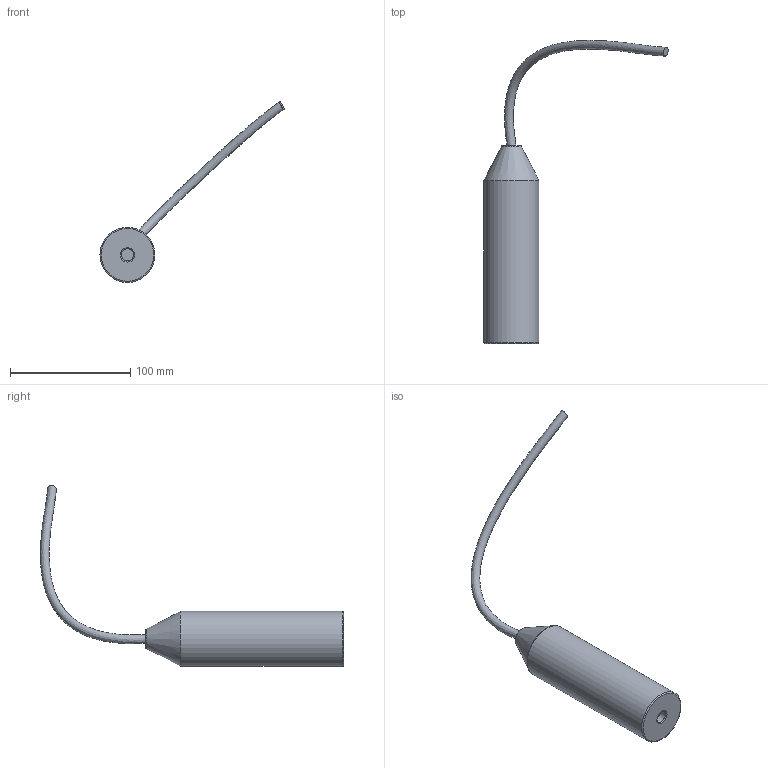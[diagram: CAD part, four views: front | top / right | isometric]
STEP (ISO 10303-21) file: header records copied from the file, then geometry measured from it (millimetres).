
FILE_DESCRIPTION(/* description */ (''),/* implementation_level */ '2;1');
FILE_NAME(/* name */ 'E:\IconProCon\FOLDERS FOR ONLINE UPLOADING\100\100\100 STEP\100.stp',/* time_stamp */ '2020-08-18T11:34:12-04:00',/* author */ ('Sohia'),/* organization */ (''),/* preprocessor_version */ 'ST-DEVELOPER v18.1',/* originating_system */ 'Autodesk Inventor 2020',/* authorisation */ '');
FILE_SCHEMA (('AUTOMOTIVE_DESIGN { 1 0 10303 214 3 1 1 }'));
Length unit declared in the file: millimetre
Products named in the file (1): 100
Bounding box: 152.95 x 251.62 x 150.17 mm (x, y, z)
Volume: 255373.3 mm3; surface area: 30031.8 mm2
Topology: 1 solids, 1 shells, 12 faces, 31 edges, 23 vertices
Faces by surface type: plane 4, torus 3, cone 2, cylinder 2, bspline 1
Full cylindrical faces by diameter (mm): 9.95 x1, 45.75 x1
Entity records: 615 total; most frequent: CARTESIAN_POINT 231, DIRECTION 78, ORIENTED_EDGE 62, AXIS2_PLACEMENT_3D 37, EDGE_CURVE 31, CIRCLE 25, VERTEX_POINT 23, EDGE_LOOP 14
